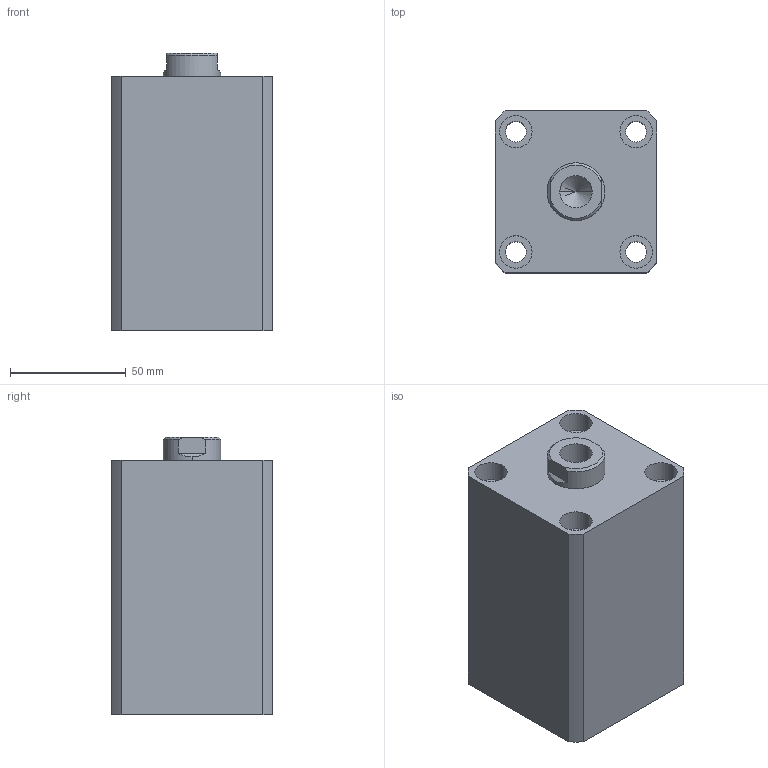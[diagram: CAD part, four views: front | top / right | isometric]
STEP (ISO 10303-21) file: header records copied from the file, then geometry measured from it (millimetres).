
FILE_DESCRIPTION (( 'STEP AP203' ), '1' );
FILE_NAME ('HTB-SDMB40-55N.STEP', '2019-10-09T01:56:17', ( '微软用户' ), ( '微软中国' ), 'SwSTEP 2.0', 'SolidWorks 2012', '' );
FILE_SCHEMA (( 'CONFIG_CONTROL_DESIGN' ));
Length unit declared in the file: millimetre
Products named in the file (3): HTB-SDMB40-55N活塞杆; HTB-SDMB40-55掛极; HTB-SDMB40-55N
Assembly tree (2 placements, depth 2):
  HTB-SDMB40-55N
    HTB-SDMB40-55掛极
    HTB-SDMB40-55N活塞杆
Bounding box: 70 x 70 x 120 mm (x, y, z)
Volume: 458617.7 mm3; surface area: 78688.3 mm2
Topology: 2 solids, 2 shells, 137 faces, 331 edges, 217 vertices
Faces by surface type: plane 65, cylinder 46, bspline 16, torus 6, cone 4
Entity records: 5074 total; most frequent: CARTESIAN_POINT 1580, ORIENTED_EDGE 658, DIRECTION 647, EDGE_CURVE 329, AXIS2_PLACEMENT_3D 232, VERTEX_POINT 217, VECTOR 183, LINE 183
